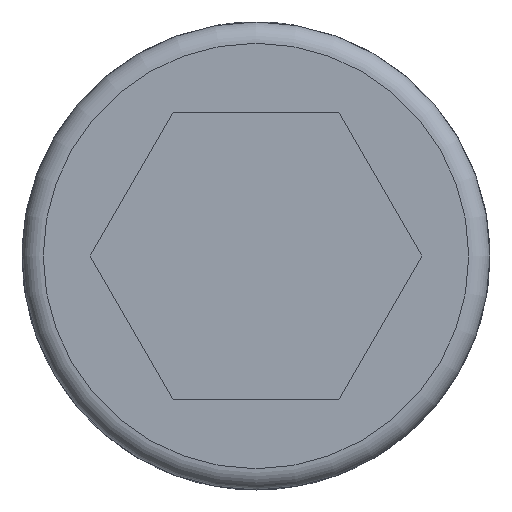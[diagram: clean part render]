
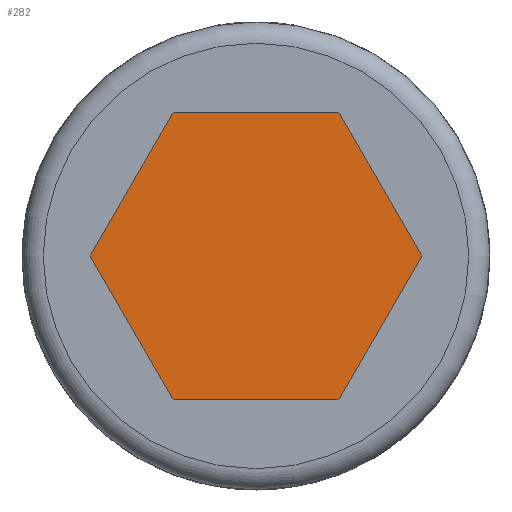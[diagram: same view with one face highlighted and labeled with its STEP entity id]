
A CAD part, left-side view. The second image highlights one B-rep face of the part: STEP entity #282.
In plain terms, the highlighted planar face has unit normal (-1, 0, 0).
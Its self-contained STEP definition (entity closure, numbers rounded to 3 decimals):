
#98=CARTESIAN_POINT('',(0.0,-7.794,-13.5));
#99=VERTEX_POINT('',#98);
#106=CARTESIAN_POINT('',(0.0,7.794,-13.5));
#107=VERTEX_POINT('',#106);
#108=CARTESIAN_POINT('',(0.0,-7.794,-13.5));
#109=DIRECTION('',(0.0,1.0,0.0));
#110=VECTOR('',#109,15.588);
#111=LINE('',#108,#110);
#112=EDGE_CURVE('',#99,#107,#111,.T.);
#136=CARTESIAN_POINT('',(0.0,-15.588,0.));
#137=VERTEX_POINT('',#136);
#144=CARTESIAN_POINT('',(0.0,-15.588,0.));
#145=DIRECTION('',(0.0,0.5,-0.866));
#146=VECTOR('',#145,15.588);
#147=LINE('',#144,#146);
#148=EDGE_CURVE('',#137,#99,#147,.T.);
#167=CARTESIAN_POINT('',(0.0,-7.794,13.5));
#168=VERTEX_POINT('',#167);
#175=CARTESIAN_POINT('',(0.0,-7.794,13.5));
#176=DIRECTION('',(0.0,-0.5,-0.866));
#177=VECTOR('',#176,15.588);
#178=LINE('',#175,#177);
#179=EDGE_CURVE('',#168,#137,#178,.T.);
#198=CARTESIAN_POINT('',(0.0,7.794,13.5));
#199=VERTEX_POINT('',#198);
#206=CARTESIAN_POINT('',(0.0,7.794,13.5));
#207=DIRECTION('',(0.0,-1.0,0.0));
#208=VECTOR('',#207,15.588);
#209=LINE('',#206,#208);
#210=EDGE_CURVE('',#199,#168,#209,.T.);
#229=CARTESIAN_POINT('',(0.0,15.588,0.));
#230=VERTEX_POINT('',#229);
#237=CARTESIAN_POINT('',(0.0,15.588,0.));
#238=DIRECTION('',(0.0,-0.5,0.866));
#239=VECTOR('',#238,15.588);
#240=LINE('',#237,#239);
#241=EDGE_CURVE('',#230,#199,#240,.T.);
#259=CARTESIAN_POINT('',(0.0,7.794,-13.5));
#260=DIRECTION('',(0.0,0.5,0.866));
#261=VECTOR('',#260,15.588);
#262=LINE('',#259,#261);
#263=EDGE_CURVE('',#107,#230,#262,.T.);
#269=CARTESIAN_POINT('',(0.0,0.0,0.));
#270=DIRECTION('',(1.0,0.0,0.0));
#271=DIRECTION('',(0.0,0.0,-1.0));
#272=AXIS2_PLACEMENT_3D('',#269,#270,#271);
#273=PLANE('',#272);
#274=ORIENTED_EDGE('',*,*,#263,.F.);
#275=ORIENTED_EDGE('',*,*,#112,.F.);
#276=ORIENTED_EDGE('',*,*,#148,.F.);
#277=ORIENTED_EDGE('',*,*,#179,.F.);
#278=ORIENTED_EDGE('',*,*,#210,.F.);
#279=ORIENTED_EDGE('',*,*,#241,.F.);
#280=EDGE_LOOP('',(#274,#275,#276,#277,#278,#279));
#281=FACE_OUTER_BOUND('',#280,.T.);
#282=ADVANCED_FACE('',(#281),#273,.F.);
